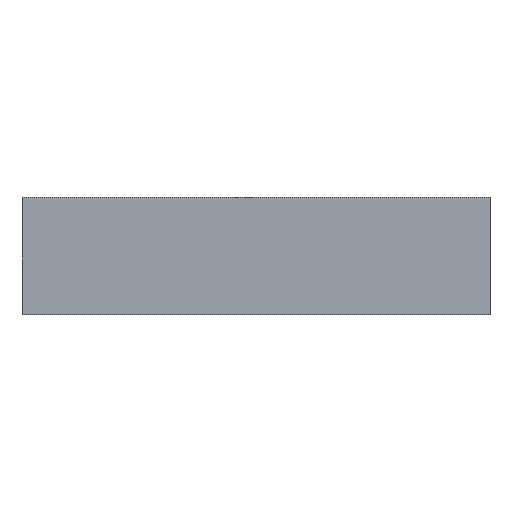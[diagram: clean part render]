
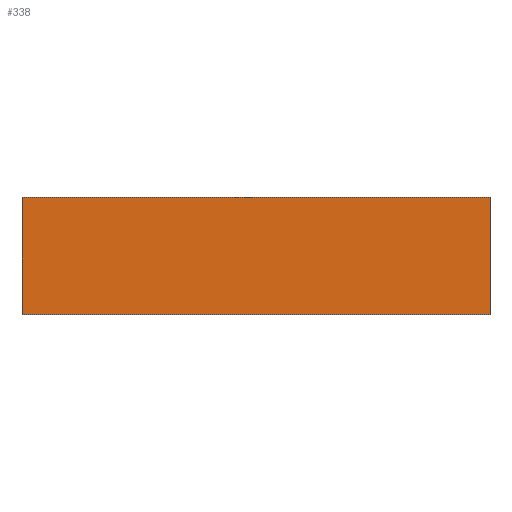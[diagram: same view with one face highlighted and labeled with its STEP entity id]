
A CAD part, top view. The second image highlights one B-rep face of the part: STEP entity #338.
In plain terms, the highlighted planar face has unit normal (0, 0, 1).
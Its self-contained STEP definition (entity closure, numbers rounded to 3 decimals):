
#24 = VERTEX_POINT('',#25);
#25 = CARTESIAN_POINT('',(22.6,-52.7,-12.71));
#32 = PLANE('',#33);
#33 = AXIS2_PLACEMENT_3D('',#34,#35,#36);
#34 = CARTESIAN_POINT('',(22.6,-52.7,-12.971));
#35 = DIRECTION('',(1.,0.,-0.));
#36 = DIRECTION('',(0.,0.,1.));
#44 = PLANE('',#45);
#45 = AXIS2_PLACEMENT_3D('',#46,#47,#48);
#46 = CARTESIAN_POINT('',(22.6,-52.7,-12.971));
#47 = DIRECTION('',(-0.,1.,0.));
#48 = DIRECTION('',(0.,0.,1.));
#85 = VERTEX_POINT('',#86);
#86 = CARTESIAN_POINT('',(22.6,-51.5,-12.71));
#100 = PLANE('',#101);
#101 = AXIS2_PLACEMENT_3D('',#102,#103,#104);
#102 = CARTESIAN_POINT('',(22.6,-51.5,-12.971));
#103 = DIRECTION('',(-0.,1.,0.));
#104 = DIRECTION('',(0.,0.,1.));
#112 = EDGE_CURVE('',#24,#85,#113,.T.);
#113 = SURFACE_CURVE('',#114,(#118,#125),.PCURVE_S1.);
#114 = LINE('',#115,#116);
#115 = CARTESIAN_POINT('',(22.6,-52.7,-12.71));
#116 = VECTOR('',#117,1.);
#117 = DIRECTION('',(-0.,1.,0.));
#118 = PCURVE('',#32,#119);
#119 = DEFINITIONAL_REPRESENTATION('',(#120),#124);
#120 = LINE('',#121,#122);
#121 = CARTESIAN_POINT('',(0.261,0.));
#122 = VECTOR('',#123,1.);
#123 = DIRECTION('',(0.,-1.));
#124 = ( GEOMETRIC_REPRESENTATION_CONTEXT(2) 
PARAMETRIC_REPRESENTATION_CONTEXT() REPRESENTATION_CONTEXT('2D SPACE',''
  ) );
#125 = PCURVE('',#126,#131);
#126 = PLANE('',#127);
#127 = AXIS2_PLACEMENT_3D('',#128,#129,#130);
#128 = CARTESIAN_POINT('',(22.6,-52.7,-12.71));
#129 = DIRECTION('',(0.,0.,1.));
#130 = DIRECTION('',(1.,0.,-0.));
#131 = DEFINITIONAL_REPRESENTATION('',(#132),#136);
#132 = LINE('',#133,#134);
#133 = CARTESIAN_POINT('',(0.,0.));
#134 = VECTOR('',#135,1.);
#135 = DIRECTION('',(0.,1.));
#136 = ( GEOMETRIC_REPRESENTATION_CONTEXT(2) 
PARAMETRIC_REPRESENTATION_CONTEXT() REPRESENTATION_CONTEXT('2D SPACE',''
  ) );
#144 = VERTEX_POINT('',#145);
#145 = CARTESIAN_POINT('',(27.4,-52.7,-12.71));
#152 = PLANE('',#153);
#153 = AXIS2_PLACEMENT_3D('',#154,#155,#156);
#154 = CARTESIAN_POINT('',(27.4,-52.7,-12.971));
#155 = DIRECTION('',(1.,0.,-0.));
#156 = DIRECTION('',(0.,0.,1.));
#195 = VERTEX_POINT('',#196);
#196 = CARTESIAN_POINT('',(27.4,-51.5,-12.71));
#217 = EDGE_CURVE('',#144,#195,#218,.T.);
#218 = SURFACE_CURVE('',#219,(#223,#230),.PCURVE_S1.);
#219 = LINE('',#220,#221);
#220 = CARTESIAN_POINT('',(27.4,-52.7,-12.71));
#221 = VECTOR('',#222,1.);
#222 = DIRECTION('',(-0.,1.,0.));
#223 = PCURVE('',#152,#224);
#224 = DEFINITIONAL_REPRESENTATION('',(#225),#229);
#225 = LINE('',#226,#227);
#226 = CARTESIAN_POINT('',(0.261,0.));
#227 = VECTOR('',#228,1.);
#228 = DIRECTION('',(0.,-1.));
#229 = ( GEOMETRIC_REPRESENTATION_CONTEXT(2) 
PARAMETRIC_REPRESENTATION_CONTEXT() REPRESENTATION_CONTEXT('2D SPACE',''
  ) );
#230 = PCURVE('',#126,#231);
#231 = DEFINITIONAL_REPRESENTATION('',(#232),#236);
#232 = LINE('',#233,#234);
#233 = CARTESIAN_POINT('',(4.8,0.));
#234 = VECTOR('',#235,1.);
#235 = DIRECTION('',(0.,1.));
#236 = ( GEOMETRIC_REPRESENTATION_CONTEXT(2) 
PARAMETRIC_REPRESENTATION_CONTEXT() REPRESENTATION_CONTEXT('2D SPACE',''
  ) );
#263 = EDGE_CURVE('',#24,#144,#264,.T.);
#264 = SURFACE_CURVE('',#265,(#269,#276),.PCURVE_S1.);
#265 = LINE('',#266,#267);
#266 = CARTESIAN_POINT('',(22.6,-52.7,-12.71));
#267 = VECTOR('',#268,1.);
#268 = DIRECTION('',(1.,0.,-0.));
#269 = PCURVE('',#44,#270);
#270 = DEFINITIONAL_REPRESENTATION('',(#271),#275);
#271 = LINE('',#272,#273);
#272 = CARTESIAN_POINT('',(0.261,0.));
#273 = VECTOR('',#274,1.);
#274 = DIRECTION('',(0.,1.));
#275 = ( GEOMETRIC_REPRESENTATION_CONTEXT(2) 
PARAMETRIC_REPRESENTATION_CONTEXT() REPRESENTATION_CONTEXT('2D SPACE',''
  ) );
#276 = PCURVE('',#126,#277);
#277 = DEFINITIONAL_REPRESENTATION('',(#278),#282);
#278 = LINE('',#279,#280);
#279 = CARTESIAN_POINT('',(0.,0.));
#280 = VECTOR('',#281,1.);
#281 = DIRECTION('',(1.,0.));
#282 = ( GEOMETRIC_REPRESENTATION_CONTEXT(2) 
PARAMETRIC_REPRESENTATION_CONTEXT() REPRESENTATION_CONTEXT('2D SPACE',''
  ) );
#310 = EDGE_CURVE('',#85,#195,#311,.T.);
#311 = SURFACE_CURVE('',#312,(#316,#323),.PCURVE_S1.);
#312 = LINE('',#313,#314);
#313 = CARTESIAN_POINT('',(22.6,-51.5,-12.71));
#314 = VECTOR('',#315,1.);
#315 = DIRECTION('',(1.,0.,-0.));
#316 = PCURVE('',#100,#317);
#317 = DEFINITIONAL_REPRESENTATION('',(#318),#322);
#318 = LINE('',#319,#320);
#319 = CARTESIAN_POINT('',(0.261,0.));
#320 = VECTOR('',#321,1.);
#321 = DIRECTION('',(0.,1.));
#322 = ( GEOMETRIC_REPRESENTATION_CONTEXT(2) 
PARAMETRIC_REPRESENTATION_CONTEXT() REPRESENTATION_CONTEXT('2D SPACE',''
  ) );
#323 = PCURVE('',#126,#324);
#324 = DEFINITIONAL_REPRESENTATION('',(#325),#329);
#325 = LINE('',#326,#327);
#326 = CARTESIAN_POINT('',(0.,1.2));
#327 = VECTOR('',#328,1.);
#328 = DIRECTION('',(1.,0.));
#329 = ( GEOMETRIC_REPRESENTATION_CONTEXT(2) 
PARAMETRIC_REPRESENTATION_CONTEXT() REPRESENTATION_CONTEXT('2D SPACE',''
  ) );
#338 = ADVANCED_FACE('',(#339),#126,.T.);
#339 = FACE_BOUND('',#340,.T.);
#340 = EDGE_LOOP('',(#341,#342,#343,#344));
#341 = ORIENTED_EDGE('',*,*,#112,.F.);
#342 = ORIENTED_EDGE('',*,*,#263,.T.);
#343 = ORIENTED_EDGE('',*,*,#217,.T.);
#344 = ORIENTED_EDGE('',*,*,#310,.F.);
